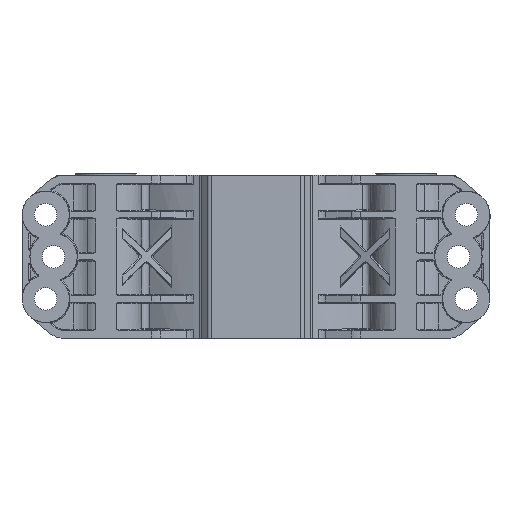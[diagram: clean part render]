
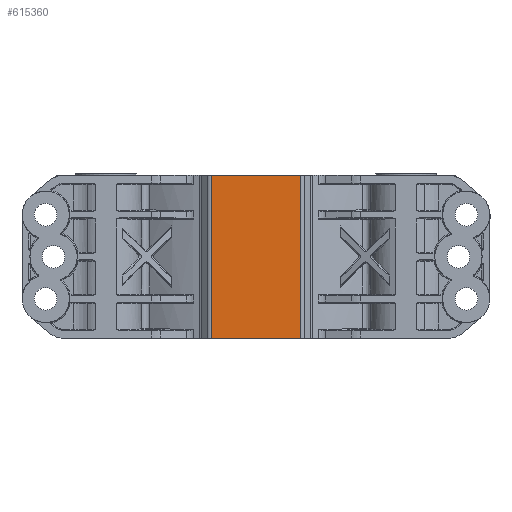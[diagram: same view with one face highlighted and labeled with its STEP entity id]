
A CAD part, front view. The second image highlights one B-rep face of the part: STEP entity #615360.
In plain terms, the highlighted planar face has unit normal (0, -1, 0).
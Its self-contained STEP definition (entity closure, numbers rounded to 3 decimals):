
#404140=CARTESIAN_POINT('',(-1.412,-136.472,
-433.415));
#404150=VERTEX_POINT('',#404140);
#404180=CARTESIAN_POINT('',(17.922,-136.472,
-433.415));
#404190=DIRECTION('',(-1.,0.,0.));
#404200=VECTOR('',#404190,1.);
#404210=LINE('',#404180,#404200);
#404220=CARTESIAN_POINT('',(15.68,-136.472,
-433.415));
#404230=VERTEX_POINT('',#404220);
#404240=EDGE_CURVE('',#404230,#404150,#404210,.T.);
#615000=CARTESIAN_POINT('',(-1.412,-136.472,
-402.415));
#615010=VERTEX_POINT('',#615000);
#615040=CARTESIAN_POINT('',(-1.412,-136.472,
-402.414));
#615050=DIRECTION('',(0.,0.,-1.));
#615060=VECTOR('',#615050,1.);
#615070=LINE('',#615040,#615060);
#615080=EDGE_CURVE('',#615010,#404150,#615070,.T.);
#615130=CARTESIAN_POINT('',(-1.352,-136.472,
-433.415));
#615140=DIRECTION('',(0.,1.,0.));
#615150=DIRECTION('',(-1.,0.,0.));
#615160=AXIS2_PLACEMENT_3D('',#615130,#615140,#615150);
#615170=PLANE('',#615160);
#615180=CARTESIAN_POINT('',(17.922,-136.472,
-402.415));
#615190=DIRECTION('',(1.,0.,0.));
#615200=VECTOR('',#615190,1.);
#615210=LINE('',#615180,#615200);
#615220=CARTESIAN_POINT('',(15.68,-136.472,
-402.415));
#615230=VERTEX_POINT('',#615220);
#615240=EDGE_CURVE('',#615010,#615230,#615210,.T.);
#615250=ORIENTED_EDGE('',*,*,#615240,.F.);
#615260=CARTESIAN_POINT('',(15.68,-136.472,
-402.414));
#615270=DIRECTION('',(0.,0.,-1.));
#615280=VECTOR('',#615270,1.);
#615290=LINE('',#615260,#615280);
#615300=EDGE_CURVE('',#615230,#404230,#615290,.T.);
#615310=ORIENTED_EDGE('',*,*,#615300,.F.);
#615320=ORIENTED_EDGE('',*,*,#404240,.F.);
#615330=ORIENTED_EDGE('',*,*,#615080,.T.);
#615340=EDGE_LOOP('',(#615330,#615320,#615310,#615250));
#615350=FACE_OUTER_BOUND('',#615340,.T.);
#615360=ADVANCED_FACE('',(#615350),#615170,.F.);
